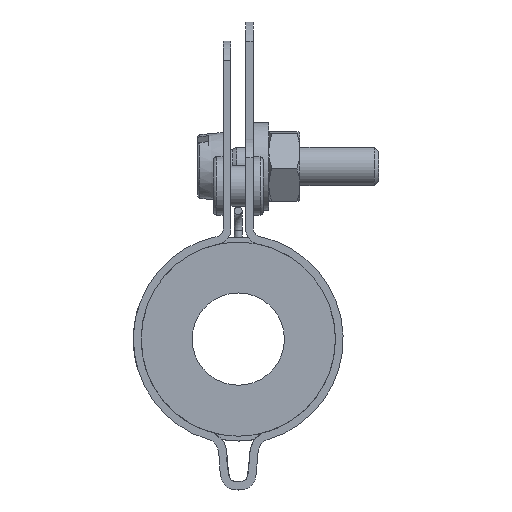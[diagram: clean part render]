
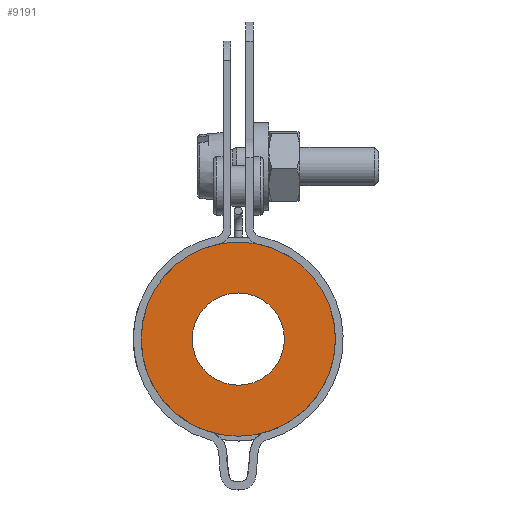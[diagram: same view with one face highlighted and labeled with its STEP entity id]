
A CAD part, front view. The second image highlights one B-rep face of the part: STEP entity #9191.
In plain terms, the highlighted planar face has unit normal (0, -1, 0).
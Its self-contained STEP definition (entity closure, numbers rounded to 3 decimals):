
#1770=FACE_BOUND($,#2720,.T.);
#1771=FACE_BOUND($,#2721,.T.);
#2720=EDGE_LOOP($,(#7646));
#2721=EDGE_LOOP($,(#7647));
#3210=CIRCLE($,#9973,10.);
#3244=CIRCLE($,#10086,4.75);
#4031=VERTEX_POINT($,#15330);
#4069=VERTEX_POINT($,#15495);
#5248=EDGE_CURVE($,#4031,#4031,#3210,.T.);
#5286=EDGE_CURVE($,#4069,#4069,#3244,.T.);
#7646=ORIENTED_EDGE($,*,*,#5286,.T.);
#7647=ORIENTED_EDGE($,*,*,#5248,.T.);
#8285=PLANE($,#10088);
#9191=ADVANCED_FACE($,(#1770,#1771),#8285,.T.);
#9973=AXIS2_PLACEMENT_3D($,#15331,#12282,#12283);
#10086=AXIS2_PLACEMENT_3D($,#15496,#12510,#12511);
#10088=AXIS2_PLACEMENT_3D($,#15498,#12514,#12515);
#12282=DIRECTION('center_axis',(0.,-1.,0.));
#12283=DIRECTION('ref_axis',(1.,0.,0.));
#12510=DIRECTION('center_axis',(0.,1.,0.));
#12511=DIRECTION('ref_axis',(1.,0.,0.));
#12514=DIRECTION('center_axis',(0.,-1.,0.));
#12515=DIRECTION('ref_axis',(0.,0.,-1.));
#15330=CARTESIAN_POINT('',(11.645,46.577,19.693));
#15331=CARTESIAN_POINT('Origin',(21.645,46.577,19.693));
#15495=CARTESIAN_POINT('',(16.895,46.577,19.693));
#15496=CARTESIAN_POINT('Origin',(21.645,46.577,19.693));
#15498=CARTESIAN_POINT('Origin',(21.645,46.577,19.693));
